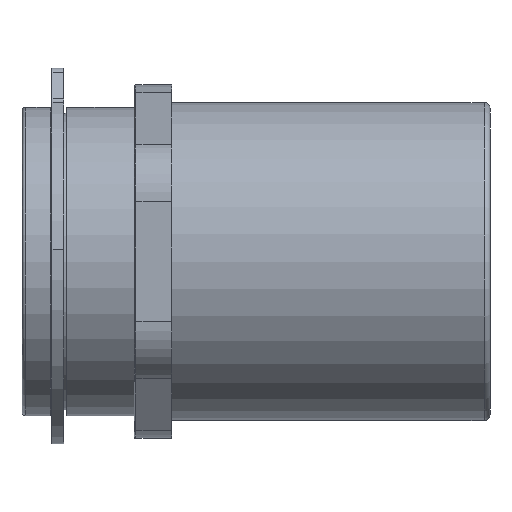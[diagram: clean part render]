
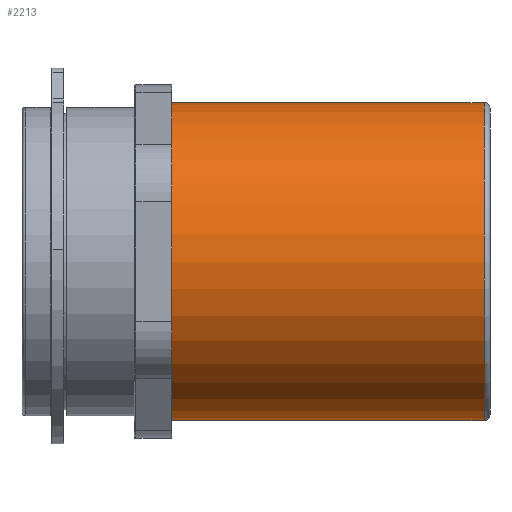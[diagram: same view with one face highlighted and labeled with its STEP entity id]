
A CAD part, left-side view. The second image highlights one B-rep face of the part: STEP entity #2213.
In plain terms, the highlighted cylindrical face has radius 26.979 mm (diameter 53.957 mm), a partial arc.
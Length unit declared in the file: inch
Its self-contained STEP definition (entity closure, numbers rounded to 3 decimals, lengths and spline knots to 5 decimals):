
#363 = EDGE_CURVE ( 'NONE', #2948, #2925, #1474, .T. ) ;
#368 = EDGE_CURVE ( 'NONE', #2988, #2399, #1462, .T. ) ;
#372 = EDGE_CURVE ( 'NONE', #2948, #2988, #1450, .T. ) ;
#381 = EDGE_CURVE ( 'NONE', #2925, #2399, #1438, .T. ) ;
#510 = CARTESIAN_POINT ( 'NONE',  ( 0., -2.085, -1.06215 ) ) ;
#527 = CARTESIAN_POINT ( 'NONE',  ( 0., 0., -1.06215 ) ) ;
#615 = DIRECTION ( 'NONE',  ( 0., 0., 1. ) ) ;
#656 = CARTESIAN_POINT ( 'NONE',  ( 0., -2.125, 0. ) ) ;
#768 = DIRECTION ( 'NONE',  ( 0., 1., 0. ) ) ;
#782 = CARTESIAN_POINT ( 'NONE',  ( 0., 0., 1.06215 ) ) ;
#790 = CARTESIAN_POINT ( 'NONE',  ( 0., -2.085, 1.06215 ) ) ;
#961 = CYLINDRICAL_SURFACE ( 'NONE', #1824, 1.06215 ) ;
#962 = FACE_OUTER_BOUND ( 'NONE', #1638, .T. ) ;
#1438 = CIRCLE ( 'NONE', #2020, 1.06215 ) ;
#1450 = CIRCLE ( 'NONE', #2027, 1.06215 ) ;
#1462 = LINE ( 'NONE', #2557, #1468 ) ;
#1468 = VECTOR ( 'NONE', #2513, 39.37008 ) ;
#1474 = LINE ( 'NONE', #2578, #1503 ) ;
#1503 = VECTOR ( 'NONE', #2564, 39.37008 ) ;
#1592 = ORIENTED_EDGE ( 'NONE', *, *, #363, .F. ) ;
#1593 = ORIENTED_EDGE ( 'NONE', *, *, #372, .T. ) ;
#1594 = ORIENTED_EDGE ( 'NONE', *, *, #368, .T. ) ;
#1595 = ORIENTED_EDGE ( 'NONE', *, *, #381, .F. ) ;
#1638 = EDGE_LOOP ( 'NONE', ( #1592, #1593, #1594, #1595 ) ) ;
#1824 = AXIS2_PLACEMENT_3D ( 'NONE', #656, #768, #615 ) ;
#2020 = AXIS2_PLACEMENT_3D ( 'NONE', #2417, #2396, #2395 ) ;
#2027 = AXIS2_PLACEMENT_3D ( 'NONE', #2499, #2496, #2494 ) ;
#2213 = ADVANCED_FACE ( 'NONE', ( #962 ), #961, .T. ) ;
#2395 = DIRECTION ( 'NONE',  ( 0., 0., 1. ) ) ;
#2396 = DIRECTION ( 'NONE',  ( 0., 1., 0. ) ) ;
#2399 = VERTEX_POINT ( 'NONE', #782 ) ;
#2417 = CARTESIAN_POINT ( 'NONE',  ( 0., 0., 0. ) ) ;
#2494 = DIRECTION ( 'NONE',  ( 0., 0., 1. ) ) ;
#2496 = DIRECTION ( 'NONE',  ( 0., 1., 0. ) ) ;
#2499 = CARTESIAN_POINT ( 'NONE',  ( 0., -2.085, 0. ) ) ;
#2513 = DIRECTION ( 'NONE',  ( 0., 1., 0. ) ) ;
#2557 = CARTESIAN_POINT ( 'NONE',  ( 0., -2.125, 1.06215 ) ) ;
#2564 = DIRECTION ( 'NONE',  ( 0., 1., 0. ) ) ;
#2578 = CARTESIAN_POINT ( 'NONE',  ( 0., -2.125, -1.06215 ) ) ;
#2925 = VERTEX_POINT ( 'NONE', #527 ) ;
#2948 = VERTEX_POINT ( 'NONE', #510 ) ;
#2988 = VERTEX_POINT ( 'NONE', #790 ) ;
